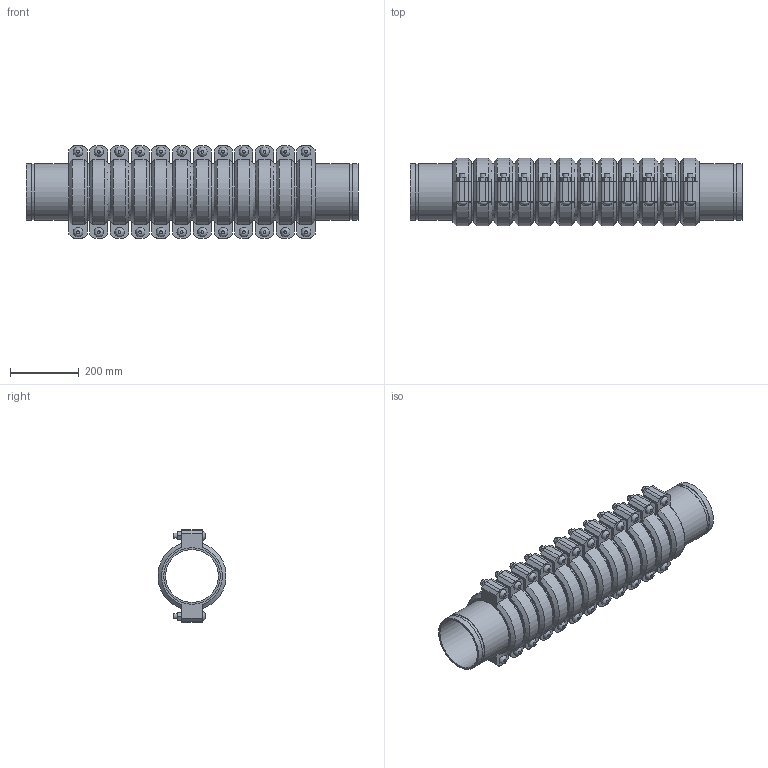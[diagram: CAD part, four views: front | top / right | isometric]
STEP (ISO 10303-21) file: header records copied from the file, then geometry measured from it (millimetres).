
FILE_DESCRIPTION(/* description */ ('VIC EXPANSION JOINT 12 COUPLINGS COMPRESSED STYLE 155 (OGS)','CAx-IF Rec.Pracs.---Representation and Presentation of Product Manufacturing Information (PMI)---4.0---2014-10-13'),/* implementation_level */ '2;1');
FILE_NAME(/* name */ 'C:\Users\kkamble\AppData\Roaming\Autodesk\ApplicationPlugins\Victaulic.Temp\A100\Victaulic_IPS_Expansion Joint_Compressed_12 Couplings_Style 155 (OGS)_06.0 (165.1) (150).stp',/* time_stamp */ '2021-06-27T00:21:49+02:00',/* author */ ('kkamble'),/* organization */ ('Victaulic'),/* preprocessor_version */ 'ST-DEVELOPER v17.2',/* originating_system */ 'Autodesk Inventor 2019',/* authorisation */ '');
FILE_SCHEMA (('AP242_MANAGED_MODEL_BASED_3D_ENGINEERING_MIM_LF { 1 0 10303 442 1 1 4 }'));
Length unit declared in the file: inch
Products named in the file (4): 155-06.0 (165.1); Nipple-06.0 (165.1); Nipple-06.0 (165.1)_1; 075_12_Coup-06.0 (165.1)
Assembly tree (25 placements, depth 2):
  155-06.0 (165.1)
    Nipple-06.0 (165.1)  x2
    Nipple-06.0 (165.1)_1  x11
    075_12_Coup-06.0 (165.1)  x12
Bounding box: 969.01 x 198.42 x 270.76 mm (x, y, z)
Volume: 10833075.7 mm3; surface area: 2397915.4 mm2
Topology: 25 solids, 49 shells, 840 faces, 1986 edges, 1392 vertices
Faces by surface type: plane 510, cylinder 258, cone 48, bspline 24
Full cylindrical faces by diameter (mm): 15.875 x48, 17.424 x24, 153.975 x13, 158.75 x12, 160.782 x26, 165.1 x63
Entity records: 2922 total; most frequent: CARTESIAN_POINT 509, DIRECTION 493, ORIENTED_EDGE 386, AXIS2_PLACEMENT_3D 200, EDGE_CURVE 193, VERTEX_POINT 138, EDGE_LOOP 107, LINE 93
